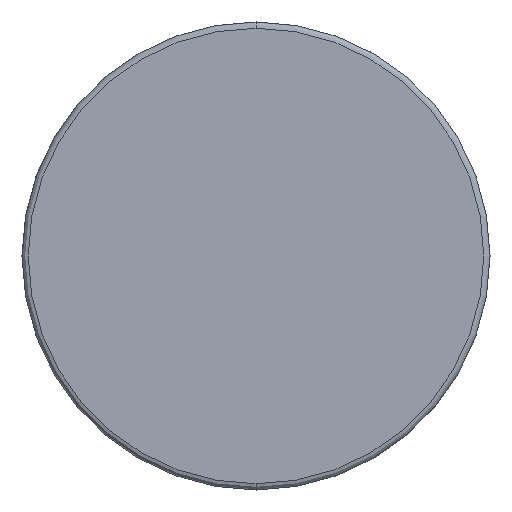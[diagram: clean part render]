
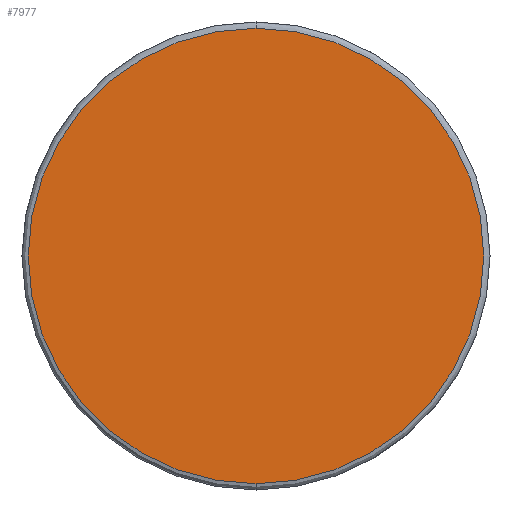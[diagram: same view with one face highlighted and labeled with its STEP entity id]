
A CAD part, front view. The second image highlights one B-rep face of the part: STEP entity #7977.
In plain terms, the highlighted planar face has unit normal (0, -1, 0).
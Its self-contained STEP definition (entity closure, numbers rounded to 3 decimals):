
#168 = ORIENTED_EDGE ( 'NONE', *, *, #2016, .T. ) ;
#272 = DIRECTION ( 'NONE',  ( 0., 0., 1. ) ) ;
#848 = DIRECTION ( 'NONE',  ( 0., -1., 0. ) ) ;
#1496 = CIRCLE ( 'NONE', #3716, 14.6 ) ;
#2016 = EDGE_CURVE ( 'NONE', #6667, #6311, #1496, .T. ) ;
#2185 = EDGE_LOOP ( 'NONE', ( #168, #7945 ) ) ;
#2225 = EDGE_CURVE ( 'NONE', #6311, #6667, #3826, .T. ) ;
#2989 = FACE_OUTER_BOUND ( 'NONE', #2185, .T. ) ;
#3716 = AXIS2_PLACEMENT_3D ( 'NONE', #4998, #848, #5699 ) ;
#3826 = CIRCLE ( 'NONE', #4929, 14.6 ) ;
#4413 = DIRECTION ( 'NONE',  ( 0., -1., 0. ) ) ;
#4447 = DIRECTION ( 'NONE',  ( 0., 0., 1. ) ) ;
#4929 = AXIS2_PLACEMENT_3D ( 'NONE', #8578, #4413, #272 ) ;
#4998 = CARTESIAN_POINT ( 'NONE',  ( 0., 0., 0. ) ) ;
#5699 = DIRECTION ( 'NONE',  ( 0., 0., 1. ) ) ;
#5784 = CARTESIAN_POINT ( 'NONE',  ( 0., 0., 14.6 ) ) ;
#6155 = CARTESIAN_POINT ( 'NONE',  ( 0., 0., -14.6 ) ) ;
#6311 = VERTEX_POINT ( 'NONE', #6155 ) ;
#6667 = VERTEX_POINT ( 'NONE', #5784 ) ;
#6703 = AXIS2_PLACEMENT_3D ( 'NONE', #7203, #8607, #4447 ) ;
#7203 = CARTESIAN_POINT ( 'NONE',  ( 0., 0., 0. ) ) ;
#7945 = ORIENTED_EDGE ( 'NONE', *, *, #2225, .T. ) ;
#7977 = ADVANCED_FACE ( 'NONE', ( #2989 ), #8571, .F. ) ;
#8571 = PLANE ( 'NONE',  #6703 ) ;
#8578 = CARTESIAN_POINT ( 'NONE',  ( 0., 0., 0. ) ) ;
#8607 = DIRECTION ( 'NONE',  ( 0., 1., 0. ) ) ;
